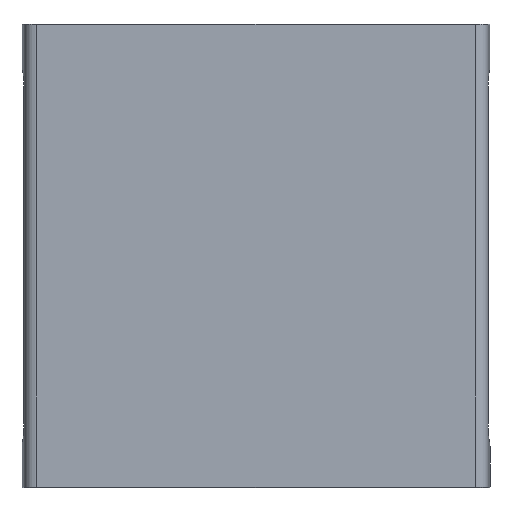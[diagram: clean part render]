
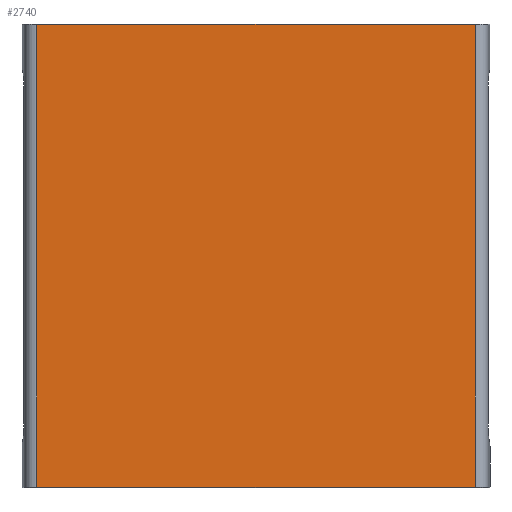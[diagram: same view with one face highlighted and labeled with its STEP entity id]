
A CAD part, top view. The second image highlights one B-rep face of the part: STEP entity #2740.
In plain terms, the highlighted planar face has unit normal (0, 0, 1).
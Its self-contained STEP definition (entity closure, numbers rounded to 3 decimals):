
#1848=CARTESIAN_POINT('',(-615.213,649.,19.0));
#1849=VERTEX_POINT('',#1848);
#1874=CARTESIAN_POINT('',(615.213,649.0,19.0));
#1875=VERTEX_POINT('',#1874);
#1876=CARTESIAN_POINT('',(-615.213,649.0,19.0));
#1877=DIRECTION('',(1.0,0.0,0.0));
#1878=VECTOR('',#1877,1230.426);
#1879=LINE('',#1876,#1878);
#1880=EDGE_CURVE('',#1849,#1875,#1879,.T.);
#2337=CARTESIAN_POINT('',(615.213,-649.,19.0));
#2338=VERTEX_POINT('',#2337);
#2371=CARTESIAN_POINT('',(-615.213,-649.,19.0));
#2372=VERTEX_POINT('',#2371);
#2373=CARTESIAN_POINT('',(615.213,-649.,19.0));
#2374=DIRECTION('',(-1.0,0.0,0.0));
#2375=VECTOR('',#2374,1230.426);
#2376=LINE('',#2373,#2375);
#2377=EDGE_CURVE('',#2338,#2372,#2376,.T.);
#2708=CARTESIAN_POINT('',(615.213,-649.,19.0));
#2709=DIRECTION('',(0.0,1.0,0.0));
#2710=VECTOR('',#2709,1298.);
#2711=LINE('',#2708,#2710);
#2712=EDGE_CURVE('',#2338,#1875,#2711,.T.);
#2724=CARTESIAN_POINT('',(0.,0.,19.0));
#2725=DIRECTION('',(0.0,0.0,1.0));
#2726=DIRECTION('',(1.0,0.0,0.0));
#2727=AXIS2_PLACEMENT_3D('',#2724,#2725,#2726);
#2728=PLANE('',#2727);
#2729=ORIENTED_EDGE('',*,*,#1880,.F.);
#2730=CARTESIAN_POINT('',(-615.213,649.,19.0));
#2731=DIRECTION('',(0.0,-1.0,0.0));
#2732=VECTOR('',#2731,1298.);
#2733=LINE('',#2730,#2732);
#2734=EDGE_CURVE('',#1849,#2372,#2733,.T.);
#2735=ORIENTED_EDGE('',*,*,#2734,.T.);
#2736=ORIENTED_EDGE('',*,*,#2377,.F.);
#2737=ORIENTED_EDGE('',*,*,#2712,.T.);
#2738=EDGE_LOOP('',(#2729,#2735,#2736,#2737));
#2739=FACE_OUTER_BOUND('',#2738,.T.);
#2740=ADVANCED_FACE('',(#2739),#2728,.T.);
